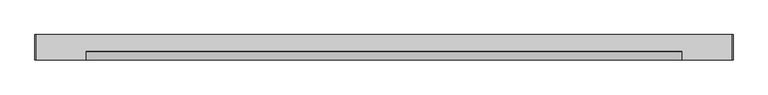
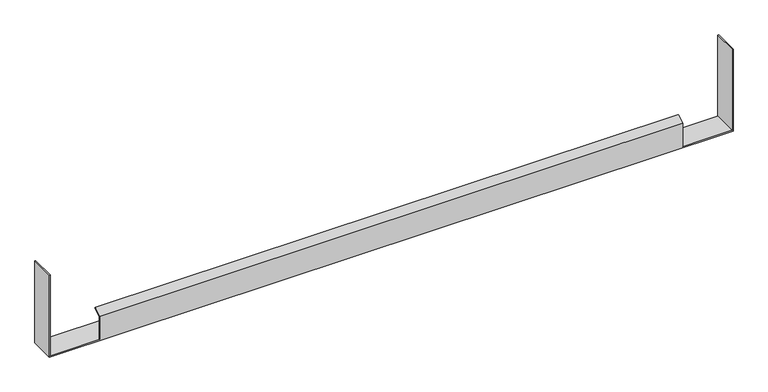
"""IFC4 building model written with IfcOpenShell, lengths in millimetres: proxy geometry, FOUNDATION^PO 3_LIFT TOP-WIRE TROUGH."""

from ifc_helpers import new_model, si_unit, origin, place, context, project, spatial, faceted_brep, source, transform, mapped, element, save


def generic_models_1fc4233c(model_context):
    return source(origin(), model_context, "Body", "Brep", [
        faceted_brep([(103.49738, -50.8, 0.0), (103.49738, -48.90262, 0.0), (1299.85262, -48.90262, 0.0), (1299.85262, -50.8, 0.0), (1401.45262, -50.8, 0.0), (1401.45262, 0.0, 0.0), (1.89738, 0.0, 0.0), (1.89738, -50.8, 0.0), (0.0, -50.8, -1.89738), (0.0, 0.0, -1.89738), (1403.35, 0.0, -1.89738), (1403.35, -50.8, -1.89738), (1299.85262, -48.90262, 49.7045471), (103.49738, -48.90262, 49.7045471), (1299.85262, -50.8, 50.8), (1299.85262, -34.925, 59.9654355), (103.49738, -34.925, 59.9654355), (103.49738, -50.8, 50.8), (1299.85262, -33.97631, 58.3222562), (103.49738, -33.97631, 58.3222562), (1401.45262, -50.8, 175.90262), (1401.45262, 0.0, 175.90262), (1403.35, -50.8, 175.90262), (1403.35, 0.0, 175.90262), (1.89738, 0.0, 175.90262), (1.89738, -50.8, 175.90262), (0.0, -50.8, 175.90262), (0.0, 0.0, 175.90262)], [[[0, 1, 2, 3, 4, 5, 6, 7]], [[8, 9, 10, 11]], [[12, 2, 1, 13]], [[14, 15, 16, 17]], [[15, 18, 19, 16]], [[18, 12, 13, 19]], [[1, 0, 17, 16, 19, 13]], [[14, 3, 2, 12, 18, 15]], [[5, 4, 20, 21]], [[20, 22, 23, 21]], [[7, 6, 24, 25]], [[26, 25, 24, 27]], [[9, 27, 24, 6, 5, 21, 23, 10]], [[26, 8, 11, 22, 20, 4, 3, 14, 17, 0, 7, 25]], [[22, 11, 10, 23]], [[8, 26, 27, 9]]]),
    ])


if __name__ == "__main__":
    model = new_model("IFC4")
    model_context = context("Model", 3, world=origin())
    ifc_project = project(units=[si_unit("LENGTHUNIT", "METRE", prefix="MILLI")], contexts=[model_context])
    site = spatial("IfcSite", under=ifc_project)
    building = spatial("IfcBuilding", under=site)
    placement = place(None, origin())
    generic_models_shape = generic_models_1fc4233c(model_context)
    element("IfcBuildingElementProxy", 1, Name="FOUNDATION^PO 3_LIFT TOP-WIRE TROUGH", ObjectType="FOUNDATION^PO 3_LIFT TOP-WIRE TROUGH", at=placement, inside=building, context=model_context, shape_type="MappedRepresentation", body=[
        mapped(generic_models_shape, transform((0.0, 0.0, 0.0), x_axis=(1.0, 0.0, 0.0), y_axis=(0.0, 1.0, 0.0), z_axis=(0.0, 0.0, 1.0))),
    ])
    save(model, "model.ifc")
